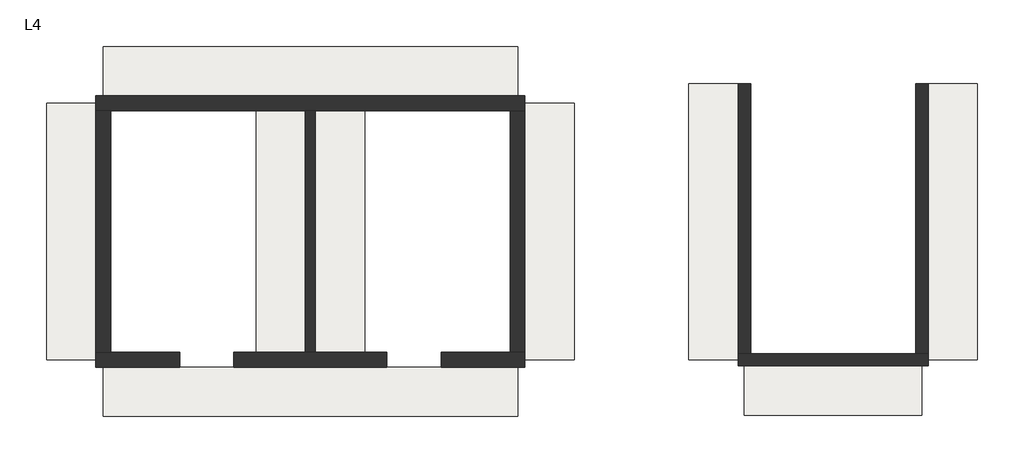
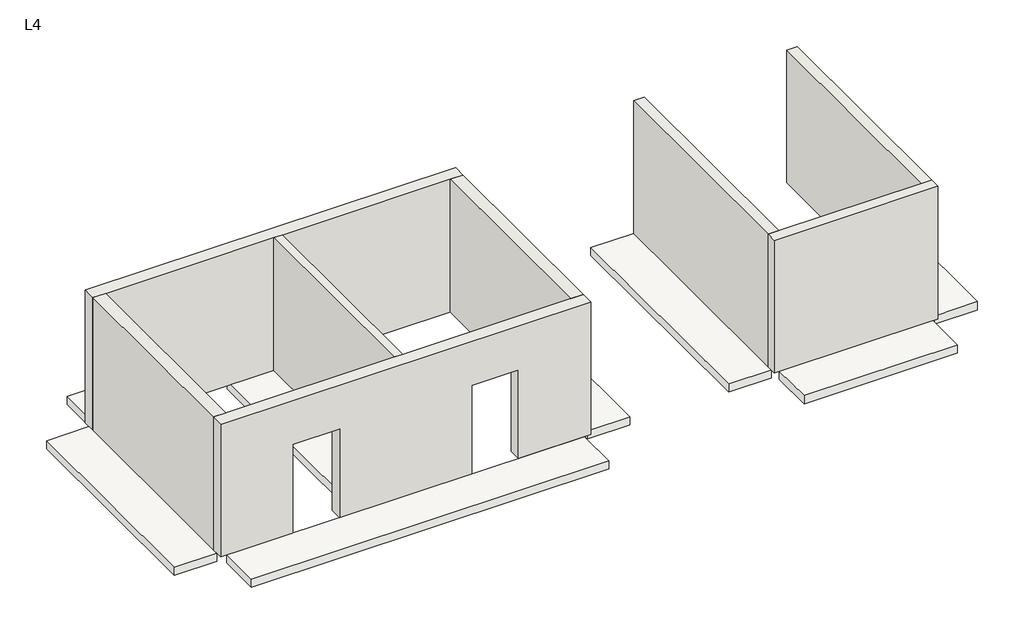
# One storey: 9 slabs, 8 walls.
"""IFC4 building model written with IfcOpenShell, lengths in millimetres."""

from ifc_helpers import new_model, si_unit, frame, origin, place, context, project, spatial, polyline, outline, extrude, faceted_brep, element, save

model = new_model("IFC4")

# Units and contexts
model_context = context("Model", 3, world=origin())
ifc_project = project(units=[si_unit("LENGTHUNIT", "METRE", prefix="MILLI")], contexts=[model_context])

# Site, building, storey
site = spatial("IfcSite", under=ifc_project)
building = spatial("IfcBuilding", under=site)
storey = spatial("IfcBuildingStorey", under=building, Name="L4", Elevation=11100.0)

# Slabs
placement = place(None, origin())
element("IfcSlab", 1, ObjectType="BS-Sàn 200", at=placement, inside=storey, context=model_context, shape_type="SweptSolid", body=[
    extrude(outline(polyline([(0.0, 6350.0), (8400.0, 6350.0), (8400.0, 5350.0), (0.0, 5350.0), (0.0, 6350.0)])), frame((0.0, 0.0, 10900.0), z_axis=(0.0, 0.0, 1.0), x_axis=(1.0, 0.0, 0.0)), (0.0, 0.0, 1.0), 200.0),
])
element("IfcSlab", 2, ObjectType="BS-Sàn 200", at=placement, inside=storey, context=model_context, shape_type="SweptSolid", body=[
    extrude(outline(polyline([(16725.0, 5600.0), (17725.0, 5600.0), (17725.0, 0.0), (16725.0, 0.0), (16725.0, 5600.0)])), frame((0.0, 0.0, 10900.0), z_axis=(0.0, 0.0, 1.0), x_axis=(1.0, 0.0, 0.0)), (0.0, 0.0, 1.0), 200.0),
])
element("IfcSlab", 3, ObjectType="BS-Sàn 200", at=placement, inside=storey, context=model_context, shape_type="SweptSolid", body=[
    extrude(outline(polyline([(11875.0, 5600.0), (12875.0, 5600.0), (12875.0, 0.0), (11875.0, 0.0), (11875.0, 5600.0)])), frame((0.0, 0.0, 10900.0), z_axis=(0.0, 0.0, 1.0), x_axis=(1.0, 0.0, 0.0)), (0.0, 0.0, 1.0), 200.0),
])
element("IfcSlab", 4, ObjectType="BS-Sàn 200", at=placement, inside=storey, context=model_context, shape_type="SweptSolid", body=[
    extrude(outline(polyline([(4300.0, 5200.0), (5300.0, 5200.0), (5300.0, 0.0), (4300.0, 0.0), (4300.0, 5200.0)])), frame((0.0, 0.0, 10900.0), z_axis=(0.0, 0.0, 1.0), x_axis=(1.0, 0.0, 0.0)), (0.0, 0.0, 1.0), 200.0),
])
element("IfcSlab", 5, ObjectType="BS-Sàn 200", at=placement, inside=storey, context=model_context, shape_type="SweptSolid", body=[
    extrude(outline(polyline([(3100.0, 5200.0), (4100.0, 5200.0), (4100.0, 0.0), (3100.0, 0.0), (3100.0, 5200.0)])), frame((0.0, 0.0, 10900.0), z_axis=(0.0, 0.0, 1.0), x_axis=(1.0, 0.0, 0.0)), (0.0, 0.0, 1.0), 200.0),
])
element("IfcSlab", 6, ObjectType="BS-Sàn 200", at=placement, inside=storey, context=model_context, shape_type="SweptSolid", body=[
    extrude(outline(polyline([(8550.0, 5200.0), (9550.0, 5200.0), (9550.0, 0.0), (8550.0, 0.0), (8550.0, 5200.0)])), frame((0.0, 0.0, 10900.0), z_axis=(0.0, 0.0, 1.0), x_axis=(1.0, 0.0, 0.0)), (0.0, 0.0, 1.0), 200.0),
])
element("IfcSlab", 7, ObjectType="BS-Sàn 200", at=placement, inside=storey, context=model_context, shape_type="SweptSolid", body=[
    extrude(outline(polyline([(-1150.0, 5200.0), (-150.0, 5200.0), (-150.0, 0.0), (-1150.0, 0.0), (-1150.0, 5200.0)])), frame((0.0, 0.0, 10900.0), z_axis=(0.0, 0.0, 1.0), x_axis=(1.0, 0.0, 0.0)), (0.0, 0.0, 1.0), 200.0),
])
element("IfcSlab", 8, ObjectType="BS-Sàn 200", at=placement, inside=storey, context=model_context, shape_type="SweptSolid", body=[
    extrude(outline(polyline([(13000.0, -125.0), (16600.0, -125.0), (16600.0, -1125.0), (13000.0, -1125.0), (13000.0, -125.0)])), frame((0.0, 0.0, 10900.0), z_axis=(0.0, 0.0, 1.0), x_axis=(1.0, 0.0, 0.0)), (0.0, 0.0, 1.0), 200.0),
])
element("IfcSlab", 9, ObjectType="BS-Sàn 200", at=placement, inside=storey, context=model_context, shape_type="SweptSolid", body=[
    extrude(outline(polyline([(0.0, -150.0), (8400.0, -150.0), (8400.0, -1150.0), (0.0, -1150.0), (0.0, -150.0)])), frame((0.0, 0.0, 10900.0), z_axis=(0.0, 0.0, 1.0), x_axis=(1.0, 0.0, 0.0)), (0.0, 0.0, 1.0), 200.0),
])

# Walls
element("IfcWall", 10, ObjectType="BS-Vách 300", at=placement, inside=storey, context=model_context, shape_type="Brep", body=[
    faceted_brep([(-150.0, 5050.0, 11100.0), (150.0, 5050.0, 11100.0), (4100.0, 5050.0, 11100.0), (4300.0, 5050.0, 11100.0), (8250.0, 5050.0, 11100.0), (8550.0, 5050.0, 11100.0), (8550.0, 5050.0, 14400.0), (8250.0, 5050.0, 14400.0), (4300.0, 5050.0, 14400.0), (4100.0, 5050.0, 14400.0), (150.0, 5050.0, 14400.0), (-150.0, 5050.0, 14400.0), (-150.0, 5350.0, 11100.0), (-150.0, 5350.0, 14400.0), (8550.0, 5350.0, 14400.0), (8550.0, 5350.0, 11100.0)], [[[0, 1, 2, 3, 4, 5, 6, 7, 8, 9, 10, 11]], [[12, 13, 14, 15]], [[5, 4, 3, 2, 1, 0, 12, 15]], [[11, 10, 9, 8, 7, 6, 14, 13]], [[6, 5, 15, 14]], [[0, 11, 13, 12]]]),
])
element("IfcWall", 11, ObjectType="BS-Vách 300", at=placement, inside=storey, context=model_context, shape_type="Brep", body=[
    faceted_brep([(8550.0, -150.0, 11100.0), (8550.0, -150.0, 14400.0), (-150.0, -150.0, 14400.0), (-150.0, -150.0, 11100.0), (1550.0, -150.0, 11100.0), (1550.0, -150.0, 13300.0), (2650.0, -150.0, 13300.0), (2650.0, -150.0, 11100.0), (5750.0, -150.0, 11100.0), (5750.0, -150.0, 13300.0), (6850.0, -150.0, 13300.0), (6850.0, -150.0, 11100.0), (8550.0, 150.0, 14400.0), (8550.0, 150.0, 11100.0), (8250.0, 150.0, 11100.0), (6850.0, 150.0, 11100.0), (6850.0, 150.0, 13300.0), (5750.0, 150.0, 13300.0), (5750.0, 150.0, 11100.0), (4300.0, 150.0, 11100.0), (4100.0, 150.0, 11100.0), (2650.0, 150.0, 11100.0), (2650.0, 150.0, 13300.0), (1550.0, 150.0, 13300.0), (1550.0, 150.0, 11100.0), (150.0, 150.0, 11100.0), (-150.0, 150.0, 11100.0), (-150.0, 150.0, 14400.0), (150.0, 150.0, 14400.0), (4100.0, 150.0, 14400.0), (4300.0, 150.0, 14400.0), (8250.0, 150.0, 14400.0)], [[[0, 1, 2, 3, 4, 5, 6, 7, 8, 9, 10, 11]], [[12, 13, 14, 15, 16, 17, 18, 19, 20, 21, 22, 23, 24, 25, 26, 27, 28, 29, 30, 31]], [[7, 21, 20, 19, 18, 8]], [[13, 0, 11, 15, 14]], [[3, 26, 25, 24, 4]], [[2, 1, 12, 31, 30, 29, 28, 27]], [[5, 23, 22, 6]], [[23, 5, 4, 24]], [[6, 22, 21, 7]], [[9, 17, 16, 10]], [[17, 9, 8, 18]], [[10, 16, 15, 11]], [[1, 0, 13, 12]], [[3, 2, 27, 26]]]),
])
element("IfcWall", 12, ObjectType="BS-Vách 300", at=placement, inside=storey, context=model_context, shape_type="SweptSolid", body=[
    extrude(outline(polyline([(150.0, 5050.0), (150.0, 150.0), (-150.0, 150.0), (-150.0, 5050.0), (150.0, 5050.0)])), frame((0.0, 0.0, 11100.0), z_axis=(0.0, 0.0, 1.0), x_axis=(1.0, 0.0, 0.0)), (0.0, 0.0, 1.0), 3300.0),
])
element("IfcWall", 13, ObjectType="BS-Vách 300", at=placement, inside=storey, context=model_context, shape_type="SweptSolid", body=[
    extrude(outline(polyline([(8550.0, 5050.0), (8550.0, 150.0), (8250.0, 150.0), (8250.0, 5050.0), (8550.0, 5050.0)])), frame((0.0, 0.0, 11100.0), z_axis=(0.0, 0.0, 1.0), x_axis=(1.0, 0.0, 0.0)), (0.0, 0.0, 1.0), 3300.0),
])
element("IfcWall", 14, ObjectType="BS-Vách 200", at=placement, inside=storey, context=model_context, shape_type="SweptSolid", body=[
    extrude(outline(polyline([(4300.0, 5050.0), (4300.0, 150.0), (4100.0, 150.0), (4100.0, 5050.0), (4300.0, 5050.0)])), frame((0.0, 0.0, 11100.0), z_axis=(0.0, 0.0, 1.0), x_axis=(1.0, 0.0, 0.0)), (0.0, 0.0, 1.0), 3300.0),
])
element("IfcWall", 15, ObjectType="BS-Vách 250", at=placement, inside=storey, context=model_context, shape_type="Brep", body=[
    faceted_brep([(12875.0, -125.0, 11100.0), (16725.0, -125.0, 11100.0), (16725.0, -125.0, 14400.0), (12875.0, -125.0, 14400.0), (12875.0, 125.0, 11100.0), (12875.0, 125.0, 14400.0), (13125.0, 125.0, 14400.0), (16475.0, 125.0, 14400.0), (16725.0, 125.0, 14400.0), (16725.0, 125.0, 11100.0), (16475.0, 125.0, 11100.0), (13125.0, 125.0, 11100.0)], [[[0, 1, 2, 3]], [[4, 5, 6, 7, 8, 9, 10, 11]], [[1, 0, 4, 11, 10, 9]], [[3, 2, 8, 7, 6, 5]], [[2, 1, 9, 8]], [[0, 3, 5, 4]]]),
])
element("IfcWall", 16, ObjectType="BS-Vách 250", at=placement, inside=storey, context=model_context, shape_type="SweptSolid", body=[
    extrude(outline(polyline([(13125.0, 5600.0), (13125.0, 125.0), (12875.0, 125.0), (12875.0, 5600.0), (13125.0, 5600.0)])), frame((0.0, 0.0, 11100.0), z_axis=(0.0, 0.0, 1.0), x_axis=(1.0, 0.0, 0.0)), (0.0, 0.0, 1.0), 3300.0),
])
element("IfcWall", 17, ObjectType="BS-Vách 250", at=placement, inside=storey, context=model_context, shape_type="SweptSolid", body=[
    extrude(outline(polyline([(16725.0, 5600.0), (16725.0, 125.0), (16475.0, 125.0), (16475.0, 5600.0), (16725.0, 5600.0)])), frame((0.0, 0.0, 11100.0), z_axis=(0.0, 0.0, 1.0), x_axis=(1.0, 0.0, 0.0)), (0.0, 0.0, 1.0), 3300.0),
])

save(model, "model.ifc")
